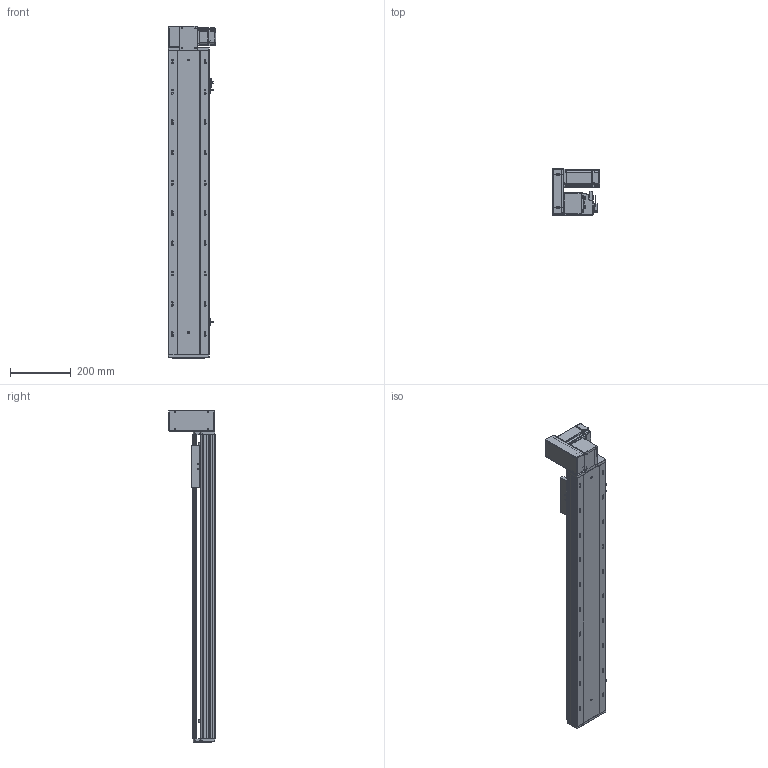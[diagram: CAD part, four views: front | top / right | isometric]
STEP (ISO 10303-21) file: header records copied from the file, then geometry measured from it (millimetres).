
FILE_DESCRIPTION (( 'STEP AP203' ), '1' );
FILE_NAME ('RY140-T-300-UL.SLDASM_750.step', '2021-03-01T07:43:29', ( '盈信电脑' ), ( '东莞市道滘镇水果街19号' ), 'SwSTEP 2.0', 'SolidWorks 2012', '' );
FILE_SCHEMA (( 'CONFIG_CONTROL_DESIGN' ));
Length unit declared in the file: millimetre
Products named in the file (18): RY140-T翋肮謫裔啣; RY140-T-300-UL.SLDASM_750; RY140-T萇儂欶; 滅袉蝶18-10; 侂狟400W侜督萇儂; RY120-T主同步轮轴承压盖; RY120-T蹟翐M4; 15; RY120-T肮祭湍揤踡輸2; RY120-T肮祭湍揤踡輸1; RY140-T翋肮祭謫盓傅釱; RY140-T萇儂假蚾啣; RY140綴裔啣; 覜茼ん672; RY120外置感应片(140共用）; RY140-T-300-DL倰第奻裔啣_750; RY140肮祭謫臏賑輸; RY140-T-300-DL倰第菁釱_750
Assembly tree (23 placements, depth 3):
  RY140-T-300-UL.SLDASM_750
    RY140-T-300-DL倰第菁釱_750
    RY140肮祭謫臏賑輸
    RY140-T-300-DL倰第奻裔啣_750
    RY140綴裔啣
    覜茼ん672  x3
    RY120外置感应片(140共用）
    RY120-T肮祭湍揤踡輸2
    RY120-T肮祭湍揤踡輸1
    RY140-T翋肮祭謫盓傅釱
    RY140-T萇儂假蚾啣
    侂狟400W侜督萇儂
      15
    RY120-T主同步轮轴承压盖
    RY120-T蹟翐M4  x4
    RY140-T萇儂欶
    滅袉蝶18-10  x2
    RY140-T翋肮謫裔啣
Bounding box: 157 x 152.5 x 1096 mm (x, y, z)
Volume: 3393220.5 mm3; surface area: 1281044.7 mm2
Topology: 22 solids, 22 shells, 2679 faces, 7377 edges, 4748 vertices
Faces by surface type: plane 1381, cylinder 996, cone 202, bspline 100
Entity records: 85379 total; most frequent: CARTESIAN_POINT 21001, ORIENTED_EDGE 13274, DIRECTION 12533, EDGE_CURVE 6637, VERTEX_POINT 4347, LINE 4221, VECTOR 4221, AXIS2_PLACEMENT_3D 4156
